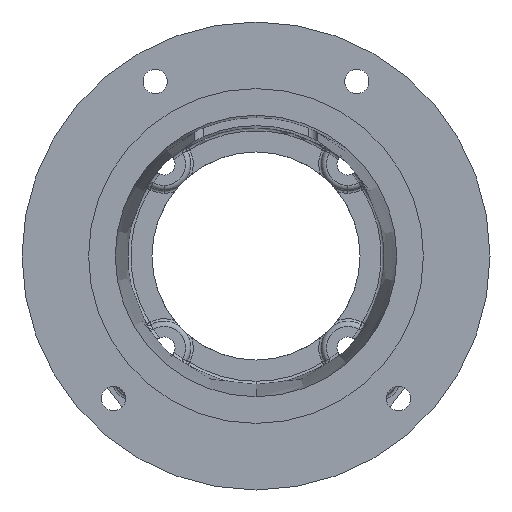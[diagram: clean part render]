
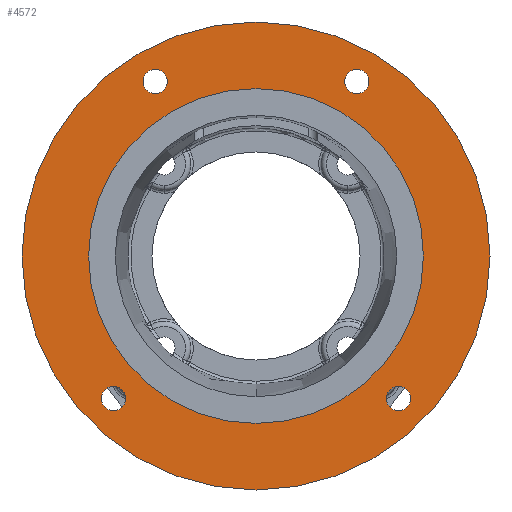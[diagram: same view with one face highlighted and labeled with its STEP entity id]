
A CAD part, front view. The second image highlights one B-rep face of the part: STEP entity #4572.
In plain terms, the highlighted planar face has unit normal (0, -1, 0).
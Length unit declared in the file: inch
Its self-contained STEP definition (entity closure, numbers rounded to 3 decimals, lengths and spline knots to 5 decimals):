
#96 = EDGE_CURVE ( 'NONE', #1915, #7480, #9274, .T. ) ;
#129 = FACE_BOUND ( 'NONE', #4191, .T. ) ;
#219 = CARTESIAN_POINT ( 'NONE',  ( -2.74004, 0., -2.50566 ) ) ;
#240 = VERTEX_POINT ( 'NONE', #7975 ) ;
#365 = ORIENTED_EDGE ( 'NONE', *, *, #8789, .F. ) ;
#562 = DIRECTION ( 'NONE',  ( 0., -1., 0. ) ) ;
#713 = VERTEX_POINT ( 'NONE', #4903 ) ;
#780 = EDGE_CURVE ( 'NONE', #5570, #1086, #6230, .T. ) ;
#785 = DIRECTION ( 'NONE',  ( 0., -1., 0. ) ) ;
#908 = CIRCLE ( 'NONE', #11010, 3.2195 ) ;
#1044 = DIRECTION ( 'NONE',  ( 0., 0., -1. ) ) ;
#1049 = DIRECTION ( 'NONE',  ( 0., -1., 0. ) ) ;
#1079 = CARTESIAN_POINT ( 'NONE',  ( 0., 0., 0. ) ) ;
#1086 = VERTEX_POINT ( 'NONE', #10954 ) ;
#1608 = CIRCLE ( 'NONE', #11369, 4.5 ) ;
#1690 = CARTESIAN_POINT ( 'NONE',  ( -1.9375, 0., 3.35585 ) ) ;
#1714 = EDGE_CURVE ( 'NONE', #7480, #1915, #908, .T. ) ;
#1853 = CIRCLE ( 'NONE', #9614, 0.23438 ) ;
#1887 = AXIS2_PLACEMENT_3D ( 'NONE', #4908, #11086, #5801 ) ;
#1902 = DIRECTION ( 'NONE',  ( 0., 0., -1. ) ) ;
#1908 = CARTESIAN_POINT ( 'NONE',  ( 0., 0., -4.5 ) ) ;
#1912 = DIRECTION ( 'NONE',  ( 0., -1., 0. ) ) ;
#1915 = VERTEX_POINT ( 'NONE', #8569 ) ;
#1926 = CARTESIAN_POINT ( 'NONE',  ( -2.74004, 0., -2.74004 ) ) ;
#1930 = EDGE_CURVE ( 'NONE', #9666, #8517, #1608, .T. ) ;
#1985 = ORIENTED_EDGE ( 'NONE', *, *, #780, .F. ) ;
#2013 = EDGE_LOOP ( 'NONE', ( #10835, #9957 ) ) ;
#2107 = AXIS2_PLACEMENT_3D ( 'NONE', #3506, #9686, #4390 ) ;
#2207 = AXIS2_PLACEMENT_3D ( 'NONE', #4014, #3999, #3983 ) ;
#2270 = FACE_BOUND ( 'NONE', #3792, .T. ) ;
#2315 = EDGE_CURVE ( 'NONE', #713, #240, #9325, .T. ) ;
#2319 = ORIENTED_EDGE ( 'NONE', *, *, #1714, .F. ) ;
#2428 = DIRECTION ( 'NONE',  ( 0., 0., -1. ) ) ;
#2445 = DIRECTION ( 'NONE',  ( 0., -1., 0. ) ) ;
#2466 = CARTESIAN_POINT ( 'NONE',  ( 0., 0., 0. ) ) ;
#2779 = EDGE_CURVE ( 'NONE', #5822, #7083, #7801, .T. ) ;
#3165 = ORIENTED_EDGE ( 'NONE', *, *, #2315, .F. ) ;
#3352 = ORIENTED_EDGE ( 'NONE', *, *, #6264, .F. ) ;
#3483 = VERTEX_POINT ( 'NONE', #7558 ) ;
#3506 = CARTESIAN_POINT ( 'NONE',  ( -1.9375, 0., 3.35585 ) ) ;
#3521 = EDGE_CURVE ( 'NONE', #3483, #7362, #1853, .T. ) ;
#3712 = CARTESIAN_POINT ( 'NONE',  ( -1.9375, 0., 3.59022 ) ) ;
#3792 = EDGE_LOOP ( 'NONE', ( #6339, #2319 ) ) ;
#3983 = DIRECTION ( 'NONE',  ( 0., 0., -1. ) ) ;
#3999 = DIRECTION ( 'NONE',  ( 0., -1., 0. ) ) ;
#4014 = CARTESIAN_POINT ( 'NONE',  ( -2.74004, 0., -2.74004 ) ) ;
#4068 = EDGE_LOOP ( 'NONE', ( #3165, #3352 ) ) ;
#4122 = AXIS2_PLACEMENT_3D ( 'NONE', #1690, #785, #7856 ) ;
#4191 = EDGE_LOOP ( 'NONE', ( #11156, #1985 ) ) ;
#4363 = AXIS2_PLACEMENT_3D ( 'NONE', #7329, #7473, #7166 ) ;
#4390 = DIRECTION ( 'NONE',  ( 0., 0., -1. ) ) ;
#4404 = AXIS2_PLACEMENT_3D ( 'NONE', #10361, #10246, #10211 ) ;
#4572 = ADVANCED_FACE ( 'NONE', ( #7221, #6960, #9299, #129, #2270, #11373 ), #7292, .F. ) ;
#4589 = EDGE_CURVE ( 'NONE', #8517, #9666, #9000, .T. ) ;
#4903 = CARTESIAN_POINT ( 'NONE',  ( 1.9375, 0., 3.12147 ) ) ;
#4908 = CARTESIAN_POINT ( 'NONE',  ( 2.74004, 0., -2.74004 ) ) ;
#4965 = AXIS2_PLACEMENT_3D ( 'NONE', #7175, #7162, #7151 ) ;
#5051 = ORIENTED_EDGE ( 'NONE', *, *, #2779, .F. ) ;
#5481 = EDGE_CURVE ( 'NONE', #1086, #5570, #5555, .T. ) ;
#5555 = CIRCLE ( 'NONE', #6743, 0.23438 ) ;
#5570 = VERTEX_POINT ( 'NONE', #219 ) ;
#5600 = ORIENTED_EDGE ( 'NONE', *, *, #3521, .F. ) ;
#5801 = DIRECTION ( 'NONE',  ( 0., 0., -1. ) ) ;
#5822 = VERTEX_POINT ( 'NONE', #3712 ) ;
#5857 = DIRECTION ( 'NONE',  ( 0., 0., -1. ) ) ;
#5892 = CARTESIAN_POINT ( 'NONE',  ( 1.9375, 0., 3.35585 ) ) ;
#5903 = DIRECTION ( 'NONE',  ( 0., -1., 0. ) ) ;
#5933 = CARTESIAN_POINT ( 'NONE',  ( 2.74004, 0., -2.74004 ) ) ;
#6230 = CIRCLE ( 'NONE', #2207, 0.23438 ) ;
#6264 = EDGE_CURVE ( 'NONE', #240, #713, #9681, .T. ) ;
#6339 = ORIENTED_EDGE ( 'NONE', *, *, #96, .F. ) ;
#6422 = CARTESIAN_POINT ( 'NONE',  ( 0., 0., 4.5 ) ) ;
#6559 = CIRCLE ( 'NONE', #2107, 0.23438 ) ;
#6743 = AXIS2_PLACEMENT_3D ( 'NONE', #1926, #1912, #1902 ) ;
#6765 = DIRECTION ( 'NONE',  ( 0., 0., -1. ) ) ;
#6826 = EDGE_LOOP ( 'NONE', ( #365, #5051 ) ) ;
#6960 = FACE_BOUND ( 'NONE', #4068, .T. ) ;
#7083 = VERTEX_POINT ( 'NONE', #8604 ) ;
#7151 = DIRECTION ( 'NONE',  ( 0., 0., -1. ) ) ;
#7162 = DIRECTION ( 'NONE',  ( 0., -1., 0. ) ) ;
#7166 = DIRECTION ( 'NONE',  ( 0., 0., 1. ) ) ;
#7175 = CARTESIAN_POINT ( 'NONE',  ( 0., 0., 0. ) ) ;
#7221 = FACE_BOUND ( 'NONE', #6826, .T. ) ;
#7231 = CIRCLE ( 'NONE', #1887, 0.23438 ) ;
#7292 = PLANE ( 'NONE',  #4363 ) ;
#7299 = CARTESIAN_POINT ( 'NONE',  ( 2.74004, 0., -2.97441 ) ) ;
#7329 = CARTESIAN_POINT ( 'NONE',  ( -4.5, 0., 0. ) ) ;
#7362 = VERTEX_POINT ( 'NONE', #7299 ) ;
#7473 = DIRECTION ( 'NONE',  ( 0., 1., 0. ) ) ;
#7480 = VERTEX_POINT ( 'NONE', #10065 ) ;
#7558 = CARTESIAN_POINT ( 'NONE',  ( 2.74004, 0., -2.50566 ) ) ;
#7801 = CIRCLE ( 'NONE', #4122, 0.23438 ) ;
#7850 = AXIS2_PLACEMENT_3D ( 'NONE', #5892, #562, #6765 ) ;
#7856 = DIRECTION ( 'NONE',  ( 0., 0., -1. ) ) ;
#7975 = CARTESIAN_POINT ( 'NONE',  ( 1.9375, 0., 3.59022 ) ) ;
#8517 = VERTEX_POINT ( 'NONE', #6422 ) ;
#8569 = CARTESIAN_POINT ( 'NONE',  ( 0., 0., -3.2195 ) ) ;
#8604 = CARTESIAN_POINT ( 'NONE',  ( -1.9375, 0., 3.12147 ) ) ;
#8657 = DIRECTION ( 'NONE',  ( 0., 0., -1. ) ) ;
#8691 = DIRECTION ( 'NONE',  ( 0., -1., 0. ) ) ;
#8760 = EDGE_LOOP ( 'NONE', ( #11213, #5600 ) ) ;
#8789 = EDGE_CURVE ( 'NONE', #7083, #5822, #6559, .T. ) ;
#8955 = CARTESIAN_POINT ( 'NONE',  ( 0., 0., 0. ) ) ;
#9000 = CIRCLE ( 'NONE', #4965, 4.5 ) ;
#9013 = EDGE_CURVE ( 'NONE', #7362, #3483, #7231, .T. ) ;
#9274 = CIRCLE ( 'NONE', #9955, 3.2195 ) ;
#9299 = FACE_BOUND ( 'NONE', #8760, .T. ) ;
#9325 = CIRCLE ( 'NONE', #4404, 0.23438 ) ;
#9614 = AXIS2_PLACEMENT_3D ( 'NONE', #5933, #5903, #5857 ) ;
#9666 = VERTEX_POINT ( 'NONE', #1908 ) ;
#9681 = CIRCLE ( 'NONE', #7850, 0.23438 ) ;
#9686 = DIRECTION ( 'NONE',  ( 0., -1., 0. ) ) ;
#9955 = AXIS2_PLACEMENT_3D ( 'NONE', #1079, #1049, #1044 ) ;
#9957 = ORIENTED_EDGE ( 'NONE', *, *, #4589, .T. ) ;
#10065 = CARTESIAN_POINT ( 'NONE',  ( 0., 0., 3.2195 ) ) ;
#10211 = DIRECTION ( 'NONE',  ( 0., 0., -1. ) ) ;
#10246 = DIRECTION ( 'NONE',  ( 0., -1., 0. ) ) ;
#10361 = CARTESIAN_POINT ( 'NONE',  ( 1.9375, 0., 3.35585 ) ) ;
#10835 = ORIENTED_EDGE ( 'NONE', *, *, #1930, .T. ) ;
#10954 = CARTESIAN_POINT ( 'NONE',  ( -2.74004, 0., -2.97441 ) ) ;
#11010 = AXIS2_PLACEMENT_3D ( 'NONE', #2466, #2445, #2428 ) ;
#11086 = DIRECTION ( 'NONE',  ( 0., -1., 0. ) ) ;
#11156 = ORIENTED_EDGE ( 'NONE', *, *, #5481, .F. ) ;
#11213 = ORIENTED_EDGE ( 'NONE', *, *, #9013, .F. ) ;
#11369 = AXIS2_PLACEMENT_3D ( 'NONE', #8955, #8691, #8657 ) ;
#11373 = FACE_OUTER_BOUND ( 'NONE', #2013, .T. ) ;
